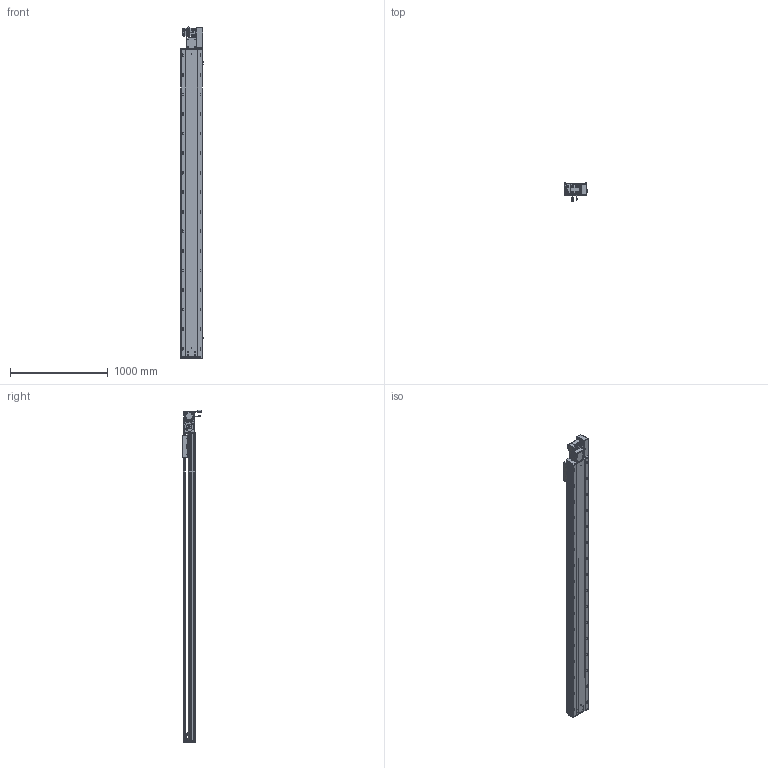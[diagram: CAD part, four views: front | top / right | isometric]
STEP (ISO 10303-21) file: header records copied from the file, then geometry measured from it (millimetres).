
FILE_DESCRIPTION (( 'STEP AP203' ), '1' );
FILE_NAME ('RY220-T-300-RK.SLDASM_2800.step', '2022-07-25T08:25:31', ( '' ), ( '' ), 'SwSTEP 2.0', 'SolidWorks 2016', '' );
FILE_SCHEMA (( 'CONFIG_CONTROL_DESIGN' ));
Length unit declared in the file: millimetre
Products named in the file (14): RY220-俋离672覜茼んえ; 怢湛750W_ECMA-CX0807ES; 110A-T-肮祭謫釱傷裔; RY220翋肮祭謫釱; RY220-T-蛌殏萇儂假蚾啣(750W); 滅袉蝶18-15; 覜茼ん672; RY220翋肮祭謫裔啣; RY220-T-湍謫欶(鍼踢); RY220-同步轮副支撑座6304×2; RY220圉猾敕々湍臏賑輸; RY220-T-300-RK.SLDASM_2800; RY220-T-300-奻裔啣_2800; RY220-T菁釱-300_2800
Assembly tree (18 placements, depth 2):
  RY220-T-300-RK.SLDASM_2800
    RY220-T菁釱-300_2800
    RY220翋肮祭謫釱
    覜茼ん672  x3
    RY220圉猾敕々湍臏賑輸
    RY220-T-300-奻裔啣_2800
    RY220-俋离672覜茼んえ
    滅袉蝶18-15  x3
    RY220翋肮祭謫裔啣  x2
    110A-T-肮祭謫釱傷裔
    怢湛750W_ECMA-CX0807ES
    RY220-T-湍謫欶(鍼踢)
    RY220-T-蛌殏萇儂假蚾啣(750W)
    RY220-同步轮副支撑座6304×2
Bounding box: 238.7 x 198.77 x 3395.24 mm (x, y, z)
Volume: 23910748.7 mm3; surface area: 7377035.7 mm2
Topology: 19 solids, 19 shells, 2990 faces, 8267 edges, 5178 vertices
Faces by surface type: cylinder 1470, plane 1069, cone 369, bspline 56, sphere 16, torus 10
Entity records: 99619 total; most frequent: CARTESIAN_POINT 28087, ORIENTED_EDGE 14778, DIRECTION 14264, EDGE_CURVE 7389, AXIS2_PLACEMENT_3D 5144, VERTEX_POINT 4802, VECTOR 3976, LINE 3976
